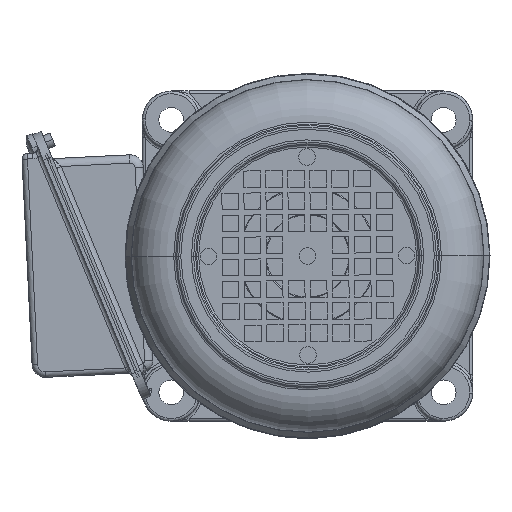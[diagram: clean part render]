
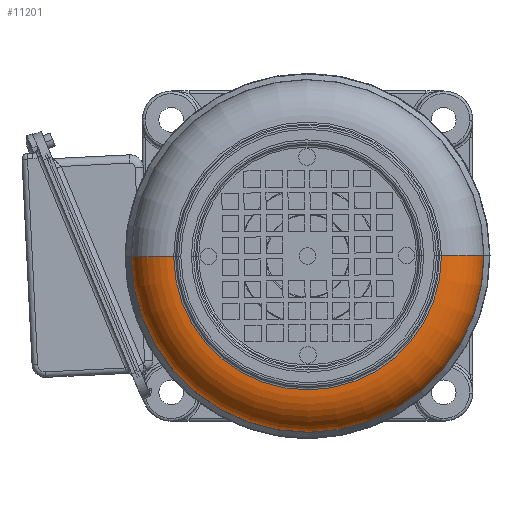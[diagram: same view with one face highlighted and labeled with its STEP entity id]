
A CAD part, front view. The second image highlights one B-rep face of the part: STEP entity #11201.
In plain terms, the highlighted toroidal (fillet/blend) face has major radius 48.673 mm and minor radius 15.331 mm.
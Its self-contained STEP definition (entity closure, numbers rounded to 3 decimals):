
#251 = DIRECTION ( 'NONE',  ( -1., 0., 0. ) ) ;
#1984 = CIRCLE ( 'NONE', #23910, 15.331 ) ;
#2660 = AXIS2_PLACEMENT_3D ( 'NONE', #7234, #19207, #31155 ) ;
#3658 = EDGE_CURVE ( 'NONE', #17885, #29102, #19592, .T. ) ;
#4298 = EDGE_LOOP ( 'NONE', ( #23987, #20865, #25079, #17752 ) ) ;
#4406 = DIRECTION ( 'NONE',  ( 0., 0., 1. ) ) ;
#5204 = CARTESIAN_POINT ( 'NONE',  ( -15., 0., 0. ) ) ;
#7234 = CARTESIAN_POINT ( 'NONE',  ( -15.325, 0., 48.673 ) ) ;
#7321 = CARTESIAN_POINT ( 'NONE',  ( -15., 0., -64. ) ) ;
#10026 = VERTEX_POINT ( 'NONE', #7321 ) ;
#11201 = ADVANCED_FACE ( 'NONE', ( #30048 ), #37306, .T. ) ;
#11540 = DIRECTION ( 'NONE',  ( 0., 1., 0. ) ) ;
#12208 = DIRECTION ( 'NONE',  ( 0., 0., 1. ) ) ;
#13259 = CIRCLE ( 'NONE', #35172, 64. ) ;
#14573 = VERTEX_POINT ( 'NONE', #29635 ) ;
#14636 = CARTESIAN_POINT ( 'NONE',  ( 0.006, 0., 48.659 ) ) ;
#17166 = DIRECTION ( 'NONE',  ( -1., 0., 0. ) ) ;
#17752 = ORIENTED_EDGE ( 'NONE', *, *, #18622, .F. ) ;
#17885 = VERTEX_POINT ( 'NONE', #14636 ) ;
#18622 = EDGE_CURVE ( 'NONE', #10026, #29102, #13259, .T. ) ;
#19207 = DIRECTION ( 'NONE',  ( 0., -1., 0. ) ) ;
#19313 = CARTESIAN_POINT ( 'NONE',  ( 0.006, 0., 0. ) ) ;
#19592 = CIRCLE ( 'NONE', #2660, 15.331 ) ;
#20405 = AXIS2_PLACEMENT_3D ( 'NONE', #27133, #251, #12208 ) ;
#20865 = ORIENTED_EDGE ( 'NONE', *, *, #31986, .T. ) ;
#20998 = EDGE_CURVE ( 'NONE', #14573, #10026, #1984, .T. ) ;
#23502 = DIRECTION ( 'NONE',  ( 0., 0., 1. ) ) ;
#23910 = AXIS2_PLACEMENT_3D ( 'NONE', #38397, #11540, #23502 ) ;
#23987 = ORIENTED_EDGE ( 'NONE', *, *, #20998, .F. ) ;
#25079 = ORIENTED_EDGE ( 'NONE', *, *, #3658, .T. ) ;
#27133 = CARTESIAN_POINT ( 'NONE',  ( -15.325, 0., 0. ) ) ;
#27435 = CIRCLE ( 'NONE', #32429, 48.659 ) ;
#29102 = VERTEX_POINT ( 'NONE', #30101 ) ;
#29130 = DIRECTION ( 'NONE',  ( 0., 0., 1. ) ) ;
#29635 = CARTESIAN_POINT ( 'NONE',  ( 0.006, 0., -48.659 ) ) ;
#30048 = FACE_OUTER_BOUND ( 'NONE', #4298, .T. ) ;
#30101 = CARTESIAN_POINT ( 'NONE',  ( -15., 0., 64. ) ) ;
#31155 = DIRECTION ( 'NONE',  ( 0., 0., -1. ) ) ;
#31268 = DIRECTION ( 'NONE',  ( -1., 0., 0. ) ) ;
#31986 = EDGE_CURVE ( 'NONE', #14573, #17885, #27435, .T. ) ;
#32429 = AXIS2_PLACEMENT_3D ( 'NONE', #19313, #31268, #4406 ) ;
#35172 = AXIS2_PLACEMENT_3D ( 'NONE', #5204, #17166, #29130 ) ;
#37306 = TOROIDAL_SURFACE ( 'NONE', #20405, 48.673, 15.331 ) ;
#38397 = CARTESIAN_POINT ( 'NONE',  ( -15.325, 0., -48.673 ) ) ;
